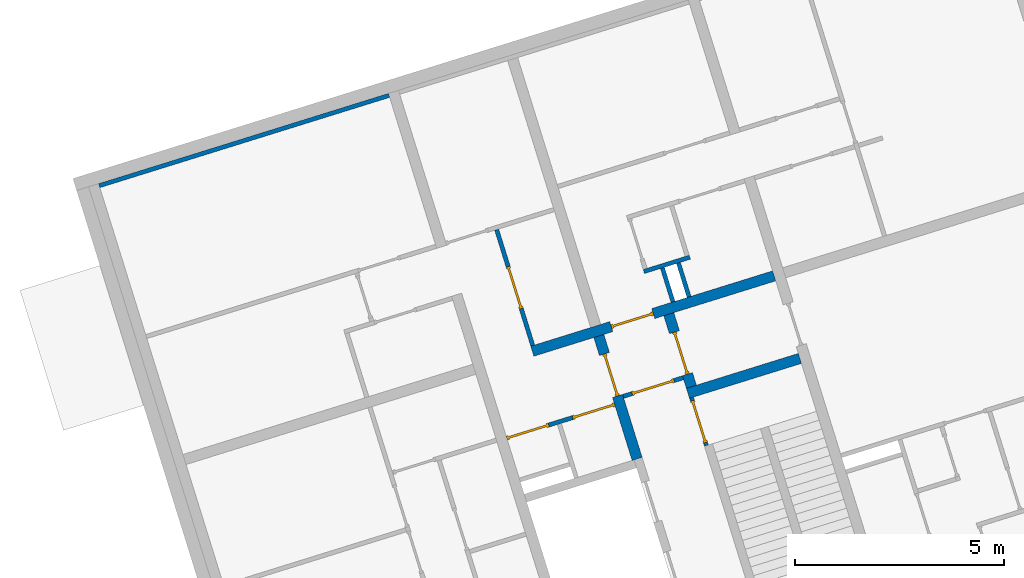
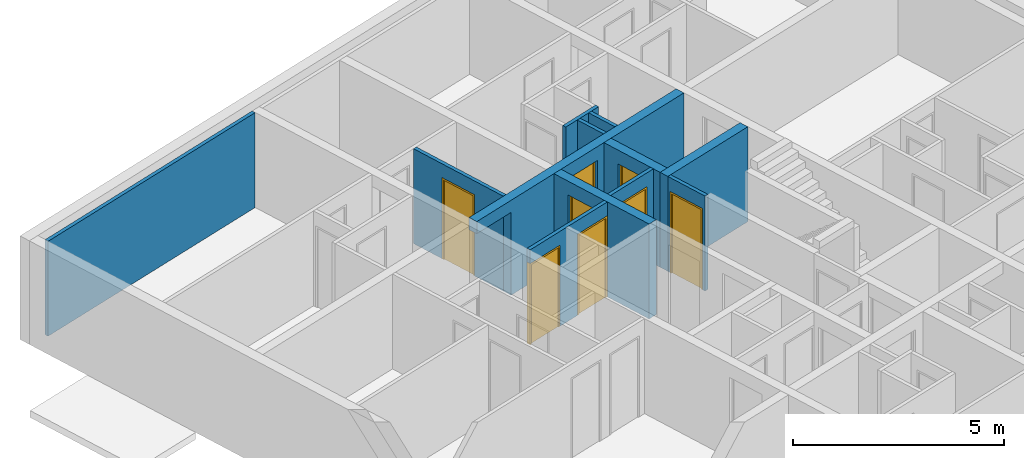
# One storey, part 5 of 8: 12 walls, 8 doors, 10 openings.
"""IFC4 building model written with IfcOpenShell, lengths in metres."""

from ifc_helpers import new_model, entity, si_unit, converted_unit, direction, frame, origin, place, context, subcontext, project, spatial, indexed_curve, outline, extrude, polygons, source, transform, mapped, material, constituent, constituent_set, type_object, type_shapes, element, fill, save


model = new_model("IFC4")

# Units and contexts
model_context = context("Model", 3, precision=1e-05, world=origin(), true_north=direction((6.12323399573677e-17, 1.0)))
body_context = subcontext(model_context, "Body", "Model", "MODEL_VIEW")
ifc_project = project(units=[si_unit("LENGTHUNIT", "METRE"), si_unit("AREAUNIT", "SQUARE_METRE"), si_unit("VOLUMEUNIT", "CUBIC_METRE"), converted_unit("PLANEANGLEUNIT", "DEGREE", entity("IfcPlaneAngleMeasure", 0.0174532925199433), si_unit("PLANEANGLEUNIT", "RADIAN"), dimensions=[0, 0, 0, 0, 0, 0, 0])], contexts=[model_context])

# Site, building, storey
site_placement = place(None, frame((13.1347999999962, 11.9886000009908, 0.0), z_axis=(0.0, 0.0, 1.0), x_axis=(0.954770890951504, 0.297342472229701, 0.0)))
site = spatial("IfcSite", under=ifc_project, at=site_placement, Name="Schiehaven", CompositionType="ELEMENT")
building_placement = place(site_placement, origin())
building = spatial("IfcBuilding", under=site, at=building_placement, Name="VORM huis", CompositionType="ELEMENT")
storey_placement = place(building_placement, frame((0.0, 0.0, 12.9)))
storey = spatial("IfcBuildingStorey", under=building, at=storey_placement, Name="04 vierde verdieping", CompositionType="ELEMENT", Elevation=12.9)

# Wall, openings, door
ifc_material_1 = material(Name="beton_gewapend_ihw", Category="Miscellaneous")
wall_type_1 = type_object("IfcWallType", Name="Basic Wall:28_WA_skelet_wand 250mm_gen", PredefinedType="STANDARD")
wall_1_placement = place(storey_placement, frame((12.6250000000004, 22.1999999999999, 0.0)))
wall_1 = element("IfcWall", 1, at=wall_1_placement, inside=storey, type_object=wall_type_1, material=ifc_material_1, Name="Constructieve wand", ObjectType="Wand", PredefinedType="NOTDEFINED", context=body_context, shape_type="Tessellation", body=[
    polygons([(4.225, -0.124999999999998, 2.34999999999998), (4.225, -0.124999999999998, 0.0), (7.25, -0.124999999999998, 0.0), (7.25, -0.124999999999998, 2.75), (-9.32382171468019e-16, -0.124999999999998, 2.75), (1.23335208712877e-15, -0.124999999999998, 2.4), (1.2, -0.124999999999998, 2.4), (1.2, -0.124999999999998, 0.0), (3.175, -0.124999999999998, 0.0), (3.175, -0.124999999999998, 2.34999999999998), (7.25, 0.125000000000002, 0.0), (4.225, 0.125000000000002, 0.0), (4.225, 0.125000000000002, 2.34999999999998), (3.175, 0.125000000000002, 2.34999999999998), (3.175, 0.125000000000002, 0.0), (1.2, 0.124999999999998, 0.0), (1.2, 0.125000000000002, 2.4), (1.38467104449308e-15, 0.125000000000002, 2.4), (1.38467104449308e-15, 0.125000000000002, 2.75), (7.25, 0.125000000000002, 2.75)], [[[1, 2, 3, 4, 5, 6, 7, 8, 9, 10]], [[11, 12, 13, 14, 15, 16, 17, 18, 19, 20]], [[9, 8, 16, 15]], [[5, 4, 20, 19]], [[5, 19, 18, 6]], [[15, 14, 10, 9]], [[13, 12, 2, 1]], [[14, 13, 1, 10]], [[7, 17, 16, 8]], [[17, 7, 6, 18]], [[4, 3, 11, 20]], [[3, 2, 12, 11]]], closed=True),
])
opening_1_placement = place(wall_1_placement, origin())
element("IfcOpeningElement", 2, at=opening_1_placement, cuts=wall_1, Name="Constructieve wand", PredefinedType="OPENING", context=body_context, shape_type="SweptSolid", body=[
    extrude(outline(indexed_curve([(-1.2, -0.6), (1.2, -0.6), (1.2, 0.6), (-1.2, 0.6), (-1.2, -0.6)], self_intersect=False)), frame((0.599999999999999, -0.125000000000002, 1.2), z_axis=(0.0, 1.0, 0.0), x_axis=(0.0, 0.0, -1.0)), (0.0, 0.0, 1.0), 0.250000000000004),
])
opening_2_placement = place(wall_1_placement, frame((4.22500000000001, 0.124999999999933, 0.0)))
opening_2 = element("IfcOpeningElement", 3, at=opening_2_placement, cuts=wall_1, Name="Woningtoegangsdeur", PredefinedType="OPENING", context=body_context, shape_type="SweptSolid", body=[
    extrude(outline(indexed_curve([(2.34999999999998, 1.05), (0.0, 1.05), (0.0, 1.08286712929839e-15), (2.34999999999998, 1.08286712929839e-15), (2.34999999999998, 1.05)], self_intersect=False)), frame((0.0, 0.0, 0.0), z_axis=(0.0, -1.0, 0.0), x_axis=(0.0, 0.0, 1.0)), (0.0, 0.0, 1.0), 0.25),
])
ifc_material_2 = material(Name="PD_a_binnenwandopeningen", Category="Miscellaneous")
ifc_constituent_1 = constituent(ifc_material_2, Name="PD_a_binnenwandopeningen", Category="Miscellaneous")
ifc_material_3 = material(Name="metaal_aluminium_ntb", Category="Miscellaneous")
ifc_constituent_2 = constituent(ifc_material_3, Name="metaal_aluminium_ntb", Category="Miscellaneous")
ifc_constituent_set_1 = constituent_set(constituents=[ifc_constituent_1, ifc_constituent_2])
door_type_1 = type_object("IfcDoorType", Name="32_DO_binnendeur enkel:woningtoegangsdeur", OperationType="REVOLVING", PredefinedType="DOOR")
shared_shape_1 = source(origin(), body_context, "Body", "SweptSolid", [
    extrude(outline(indexed_curve([(-1.16249999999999, -0.525000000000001), (1.18749999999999, -0.525), (1.18749999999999, 0.525000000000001), (-1.16249999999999, 0.525000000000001), (-1.16249999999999, 0.475), (1.13749999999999, 0.475), (1.13749999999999, -0.475), (-1.16249999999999, -0.475), (-1.16249999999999, -0.525000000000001)], self_intersect=False)), frame((0.525000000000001, 0.0749999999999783, 1.16249999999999), z_axis=(0.0, 1.0, 0.0), x_axis=(0.0, 0.0, 1.0)), (0.0, 0.0, 1.0), 0.1),
    extrude(outline(indexed_curve([(-0.025, -0.475), (0.025, -0.475), (0.025, 0.475), (-0.025, 0.475), (-0.025, -0.475)], self_intersect=False)), frame((0.525000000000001, 0.12499999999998, 0.0), z_axis=(0.0, 0.0, 1.0), x_axis=(0.0, 1.0, 0.0)), (0.0, 0.0, 1.0), 2.29999999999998),
])
door_1_placement = place(opening_2_placement, frame((0.0, 0.0, 0.0), z_axis=(0.0, 0.0, 1.0), x_axis=(-1.0, 0.0, 0.0)))
door_1 = element("IfcDoor", 4, at=door_1_placement, inside=storey, type_object=door_type_1, material=ifc_constituent_set_1, Name="Woningtoegangsdeur", ObjectType="Deur", OperationType="REVOLVING", OverallHeight=2.34999999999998, OverallWidth=1.05, PredefinedType="DOOR", context=body_context, shape_type="MappedRepresentation", body=[
    mapped(shared_shape_1, transform((0.0, 0.0, 0.0), scale=1.0)),
])
fill(opening_2, door_1)

# Walls
ifc_material_4 = material(Name="ntb_ntb_ntb", Category="Miscellaneous")
wall_type_2 = type_object("IfcWallType", Name="Basic Wall:21_WA_gevel_binnenspouwwand 100mm_gen", PredefinedType="STANDARD")
wall_2_placement = place(storey_placement, frame((5.12500000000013, 29.0500000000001, 0.0)))
element("IfcWall", 5, at=wall_2_placement, inside=storey, type_object=wall_type_2, material=ifc_material_4, Name="Binnenspouwblad", ObjectType="Wand", PredefinedType="NOTDEFINED", context=body_context, shape_type="SweptSolid", body=[
    extrude(outline(indexed_curve([(7.24999999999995, 0.0500000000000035), (-1.62265042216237e-16, 0.0500000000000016), (1.62265042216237e-16, -0.0500000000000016), (7.24999999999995, -0.0499999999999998), (7.24999999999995, 0.0500000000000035)], self_intersect=False)), origin(), (0.0, 0.0, 1.0), 2.75),
])
wall_type_3 = type_object("IfcWallType", Name="Basic Wall:22_WA_afbouw_binnenwand 250mm_gen", PredefinedType="STANDARD")
wall_3_placement = place(storey_placement, frame((19.8750000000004, 20.1349999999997, 0.0), z_axis=(0.0, 0.0, 1.0), x_axis=(-1.0, 0.0, 0.0)))
element("IfcWall", 6, at=wall_3_placement, inside=storey, type_object=wall_type_3, material=ifc_material_4, Name="Binnenwand", ObjectType="Wand", PredefinedType="NOTDEFINED", context=body_context, shape_type="SweptSolid", body=[
    extrude(outline(indexed_curve([(2.80000000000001, 0.125000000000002), (2.21820971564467e-15, 0.125000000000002), (2.1132588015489e-15, -0.125000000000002), (2.80000000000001, -0.125000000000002), (2.80000000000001, 0.125000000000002)], self_intersect=False)), origin(), (0.0, 0.0, 1.0), 2.75),
])

# Wall, opening, door
wall_4_placement = place(storey_placement, frame((17.2000000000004, 20.2599999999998, 0.0), z_axis=(0.0, 0.0, 1.0), x_axis=(0.0, 1.0, 0.0)))
wall_4 = element("IfcWall", 7, at=wall_4_placement, inside=storey, type_object=wall_type_3, material=ifc_material_4, Name="Binnenwand", ObjectType="Wand", PredefinedType="NOTDEFINED", context=body_context, shape_type="Tessellation", body=[
    polygons([(0.0, -0.124999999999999, 0.0), (0.315000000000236, -0.124999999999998, 0.0), (0.315000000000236, -0.124999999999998, 2.34999999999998), (1.36500000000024, -0.124999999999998, 2.34999999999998), (1.36500000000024, -0.124999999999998, 0.0), (1.81500000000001, -0.124999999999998, 0.0), (1.81500000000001, -0.124999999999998, 2.75), (0.0, -0.124999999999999, 2.75), (0.315000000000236, 0.125000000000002, 2.34999999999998), (0.315000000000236, 0.125000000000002, 0.0), (0.215000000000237, 0.125000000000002, 0.0), (0.0, 0.125, 0.0), (0.0, 0.125, 2.75), (0.215000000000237, 0.125000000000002, 2.75), (0.315000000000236, 0.125000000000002, 2.75), (1.81500000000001, 0.124999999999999, 2.75), (1.81500000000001, 0.124999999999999, 0.0), (1.36500000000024, 0.125000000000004, 0.0), (1.36500000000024, 0.125000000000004, 2.34999999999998)], [[[1, 2, 3, 4, 5, 6, 7, 8]], [[9, 10, 11, 12, 13, 14, 15, 16, 17, 18, 19]], [[12, 11, 10, 2, 1]], [[7, 6, 17, 16]], [[8, 7, 16, 15, 14, 13]], [[5, 4, 19, 18]], [[3, 2, 10, 9]], [[4, 3, 9, 19]], [[1, 8, 13, 12]], [[18, 17, 6, 5]]], closed=True),
])
opening_3_placement = place(wall_4_placement, frame((0.315000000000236, -0.125000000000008, 0.0)))
opening_3 = element("IfcOpeningElement", 8, at=opening_3_placement, cuts=wall_4, Name="Woningtoegangsdeur", PredefinedType="OPENING", context=body_context, shape_type="SweptSolid", body=[
    extrude(outline(indexed_curve([(2.34999999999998, 1.05), (0.0, 1.05), (0.0, 0.0), (2.34999999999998, 0.0), (2.34999999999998, 1.05)], self_intersect=False)), frame((0.0, 0.0, 0.0), z_axis=(0.0, 1.0, 0.0), x_axis=(0.0, 0.0, 1.0)), (0.0, 0.0, 1.0), 0.25),
])
ifc_constituent_3 = constituent(ifc_material_2, Name="PD_a_binnenwandopeningen", Category="Miscellaneous")
ifc_constituent_4 = constituent(ifc_material_3, Name="metaal_aluminium_ntb", Category="Miscellaneous")
ifc_constituent_set_2 = constituent_set(constituents=[ifc_constituent_3, ifc_constituent_4])
shared_shape_2 = source(origin(), body_context, "Body", "SweptSolid", [
    extrude(outline(indexed_curve([(-1.16249999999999, -0.525000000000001), (1.18749999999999, -0.525), (1.18749999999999, 0.525000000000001), (-1.16249999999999, 0.525000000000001), (-1.16249999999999, 0.475), (1.13749999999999, 0.475), (1.13749999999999, -0.475), (-1.16249999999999, -0.475), (-1.16249999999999, -0.525000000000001)], self_intersect=False)), frame((0.525000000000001, 0.0749999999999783, 1.16249999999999), z_axis=(0.0, 1.0, 0.0), x_axis=(0.0, 0.0, 1.0)), (0.0, 0.0, 1.0), 0.1),
    extrude(outline(indexed_curve([(-0.025, -0.475), (0.025, -0.475), (0.025, 0.475), (-0.025, 0.475), (-0.025, -0.475)], self_intersect=False)), frame((0.525000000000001, 0.12499999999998, 0.0), z_axis=(0.0, 0.0, 1.0), x_axis=(0.0, 1.0, 0.0)), (0.0, 0.0, 1.0), 2.29999999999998),
])
type_shapes(door_type_1, [shared_shape_2])
door_2_placement = place(opening_3_placement, origin())
door_2 = element("IfcDoor", 9, at=door_2_placement, inside=storey, type_object=door_type_1, material=ifc_constituent_set_2, Name="Woningtoegangsdeur", ObjectType="Deur", OperationType="REVOLVING", OverallHeight=2.34999999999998, OverallWidth=1.05, PredefinedType="DOOR", context=body_context, shape_type="MappedRepresentation", body=[
    mapped(shared_shape_2, transform((0.0, 0.0, 0.0), scale=1.0)),
])
fill(opening_3, door_2)

wall_5_placement = place(storey_placement, frame((15.4500000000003, 19.0, 0.0), z_axis=(0.0, 0.0, 1.0), x_axis=(0.0, 1.0, 0.0)))
wall_5 = element("IfcWall", 10, at=wall_5_placement, inside=storey, type_object=wall_type_3, material=ifc_material_4, Name="Binnenwand", ObjectType="Wand", PredefinedType="NOTDEFINED", context=body_context, shape_type="Tessellation", body=[
    polygons([(2.62500000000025, -0.124999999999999, 2.34999999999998), (2.62500000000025, -0.124999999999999, 0.0), (3.075, -0.124999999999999, 0.0), (3.075, -0.124999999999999, 2.75), (1.57500000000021, -0.124999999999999, 2.75), (1.47500000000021, -0.124999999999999, 2.75), (4.33146851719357e-15, -0.125, 2.75), (4.33146851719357e-15, -0.125, 0.0), (1.47500000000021, -0.124999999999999, 0.0), (1.57500000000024, -0.124999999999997, 0.0), (1.57500000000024, -0.124999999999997, 2.34999999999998), (3.075, 0.125, 0.0), (2.62500000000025, 0.125000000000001, 0.0), (2.62500000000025, 0.125000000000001, 2.34999999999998), (1.57500000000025, 0.125000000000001, 2.34999999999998), (1.57500000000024, 0.125000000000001, 0.0), (0.0, 0.125, 0.0), (0.0, 0.125, 2.75), (3.075, 0.125, 2.75)], [[[1, 2, 3, 4, 5, 6, 7, 8, 9, 10, 11]], [[12, 13, 14, 15, 16, 17, 18, 19]], [[10, 9, 8, 17, 16]], [[4, 3, 12, 19]], [[7, 6, 5, 4, 19, 18]], [[8, 7, 18, 17]], [[16, 15, 11, 10]], [[14, 13, 2, 1]], [[15, 14, 1, 11]], [[3, 2, 13, 12]]], closed=True),
])
opening_4_placement = place(wall_5_placement, frame((2.62500000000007, 0.124999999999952, 0.0)))
opening_4 = element("IfcOpeningElement", 11, at=opening_4_placement, cuts=wall_5, Name="Woningtoegangsdeur", PredefinedType="OPENING", context=body_context, shape_type="SweptSolid", body=[
    extrude(outline(indexed_curve([(2.34999999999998, 1.05), (0.0, 1.05), (0.0, -4.02144990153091e-29), (2.34999999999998, -4.02144990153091e-29), (2.34999999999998, 1.05)], self_intersect=False)), frame((0.0, 0.0, 0.0), z_axis=(0.0, -1.0, 0.0), x_axis=(0.0, 0.0, 1.0)), (0.0, 0.0, 1.0), 0.25),
])
ifc_constituent_5 = constituent(ifc_material_2, Name="PD_a_binnenwandopeningen", Category="Miscellaneous")
ifc_constituent_6 = constituent(ifc_material_3, Name="metaal_aluminium_ntb", Category="Miscellaneous")
ifc_constituent_set_3 = constituent_set(constituents=[ifc_constituent_5, ifc_constituent_6])
door_3_placement = place(opening_4_placement, frame((0.0, 0.0, 0.0), z_axis=(0.0, 0.0, 1.0), x_axis=(-1.0, 0.0, 0.0)))
door_3 = element("IfcDoor", 12, at=door_3_placement, inside=storey, type_object=door_type_1, material=ifc_constituent_set_3, Name="Woningtoegangsdeur", ObjectType="Deur", OperationType="REVOLVING", OverallHeight=2.34999999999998, OverallWidth=1.05, PredefinedType="DOOR", context=body_context, shape_type="MappedRepresentation", body=[
    mapped(shared_shape_2, transform((0.0, 0.0, 0.0), scale=1.0)),
])
fill(opening_4, door_3)

wall_type_4 = type_object("IfcWallType", Name="Basic Wall:22_WA_afbouw_binnenwand 100mm_gen", PredefinedType="STANDARD")
wall_6_placement = place(storey_placement, frame((17.1250000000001, 20.0099999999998, 0.0), z_axis=(0.0, 0.0, 1.0), x_axis=(0.0, -1.0, 0.0)))
wall_6 = element("IfcWall", 13, at=wall_6_placement, inside=storey, type_object=wall_type_4, material=ifc_material_4, Name="Binnenwand", ObjectType="Wand", PredefinedType="NOTDEFINED", context=body_context, shape_type="Tessellation", body=[
    polygons([(1.19999999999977, -0.050000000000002, 0.0), (1.19999999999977, -0.050000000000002, 2.75), (0.0, -0.0500000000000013, 2.75), (0.0, -0.0500000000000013, 0.0), (0.074999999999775, -0.0500000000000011, 0.0), (0.074999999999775, -0.0500000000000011, 2.34999999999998), (1.12499999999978, -0.0500000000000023, 2.34999999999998), (1.12499999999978, -0.0500000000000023, 0.0), (1.19999999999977, 0.0499999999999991, 2.75), (1.19999999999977, 0.0499999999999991, 0.0), (1.12499999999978, 0.0499999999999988, 0.0), (1.12499999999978, 0.0499999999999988, 2.34999999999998), (0.074999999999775, 0.0499999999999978, 2.34999999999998), (0.074999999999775, 0.0499999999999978, 0.0), (0.0, 0.0499999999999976, 0.0), (0.0, 0.0499999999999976, 2.75)], [[[1, 2, 3, 4, 5, 6, 7, 8]], [[9, 10, 11, 12, 13, 14, 15, 16]], [[4, 15, 14, 5]], [[2, 1, 10, 9]], [[3, 2, 9, 16]], [[13, 6, 5, 14]], [[6, 13, 12, 7]], [[7, 12, 11, 8]], [[4, 3, 16, 15]], [[10, 1, 8, 11]]], closed=True),
])
opening_5_placement = place(wall_6_placement, frame((0.074999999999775, -0.0500000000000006, 0.0)))
opening_5 = element("IfcOpeningElement", 14, at=opening_5_placement, cuts=wall_6, Name="Vluchtdeur", PredefinedType="OPENING", context=body_context, shape_type="SweptSolid", body=[
    extrude(outline(indexed_curve([(2.34999999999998, 1.05), (0.0, 1.05), (0.0, -3.51974282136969e-30), (2.34999999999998, -3.51974282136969e-30), (2.34999999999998, 1.05)], self_intersect=False)), frame((0.0, 0.0, 0.0), z_axis=(0.0, 1.0, 0.0), x_axis=(0.0, 0.0, 1.0)), (0.0, 0.0, 1.0), 0.1),
])
ifc_constituent_7 = constituent(ifc_material_2, Name="PD_a_binnenwandopeningen", Category="Miscellaneous")
ifc_constituent_8 = constituent(ifc_material_3, Name="metaal_aluminium_ntb", Category="Miscellaneous")
ifc_constituent_set_4 = constituent_set(constituents=[ifc_constituent_7, ifc_constituent_8])
door_type_2 = type_object("IfcDoorType", Name="32_DO_binnendeur enkel:binnendeur zelfsluitend 30min", OperationType="NOTDEFINED", PredefinedType="DOOR")
shared_shape_3 = source(origin(), body_context, "Body", "SweptSolid", [
    extrude(outline(indexed_curve([(-1.16249999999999, -0.525000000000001), (1.18749999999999, -0.525), (1.18749999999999, 0.525), (-1.16249999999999, 0.525), (-1.16249999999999, 0.475), (1.13749999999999, 0.475), (1.13749999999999, -0.475), (-1.16249999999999, -0.475), (-1.16249999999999, -0.525000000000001)], self_intersect=False)), frame((0.525000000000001, 0.0, 1.16249999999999), z_axis=(0.0, 1.0, 0.0), x_axis=(0.0, 0.0, 1.0)), (0.0, 0.0, 1.0), 0.1),
    extrude(outline(indexed_curve([(-0.025, -0.475), (0.025, -0.475), (0.025, 0.475), (-0.025, 0.475), (-0.025, -0.475)], self_intersect=False)), frame((0.525000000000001, 0.0499999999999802, 0.0), z_axis=(0.0, 0.0, 1.0), x_axis=(0.0, 1.0, 0.0)), (0.0, 0.0, 1.0), 2.29999999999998),
])
type_shapes(door_type_2, [shared_shape_3])
door_4_placement = place(opening_5_placement, origin())
door_4 = element("IfcDoor", 15, at=door_4_placement, inside=storey, type_object=door_type_2, material=ifc_constituent_set_4, Name="Vluchtdeur", ObjectType="Deur", OperationType="NOTDEFINED", OverallHeight=2.34999999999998, OverallWidth=1.05, PredefinedType="DOOR", context=body_context, shape_type="MappedRepresentation", body=[
    mapped(shared_shape_3, transform((0.0, 0.0, 0.0), scale=1.0)),
])
fill(opening_5, door_4)

wall_7_placement = place(storey_placement, frame((17.0750000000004, 20.525, 0.0), z_axis=(0.0, 0.0, 1.0), x_axis=(-1.0, 0.0, 0.0)))
wall_7 = element("IfcWall", 16, at=wall_7_placement, inside=storey, type_object=wall_type_4, material=ifc_material_4, Name="Binnenwand", ObjectType="Wand", PredefinedType="NOTDEFINED", context=body_context, shape_type="Tessellation", body=[
    polygons([(1.50000000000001, -0.0499999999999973, 2.75), (7.85851977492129e-16, -0.0499999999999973, 2.75), (7.85851977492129e-16, -0.0499999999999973, 2.34999999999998), (7.85851977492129e-16, -0.0499999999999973, 0.0), (0.22500000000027, -0.0499999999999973, 0.0), (0.225000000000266, -0.0499999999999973, 2.34999999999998), (1.27500000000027, -0.0499999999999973, 2.34999999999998), (1.27500000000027, -0.0499999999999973, 0.0), (1.50000000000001, -0.0499999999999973, 0.0), (1.5, -0.0499999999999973, 2.34999999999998), (3.01092306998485e-15, 0.0500000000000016, 2.75), (1.50000000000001, 0.0500000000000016, 2.75), (1.50000000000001, 0.0500000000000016, 0.0), (1.27500000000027, 0.0500000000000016, 0.0), (1.27500000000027, 0.0500000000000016, 2.34999999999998), (0.225000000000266, 0.0500000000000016, 2.34999999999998), (0.22500000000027, 0.0500000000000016, 0.0), (3.01092306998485e-15, 0.0500000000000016, 0.0)], [[[1, 2, 3, 4, 5, 6, 7, 8, 9, 10]], [[11, 12, 13, 14, 15, 16, 17, 18]], [[4, 18, 17, 5]], [[2, 1, 12, 11]], [[16, 6, 5, 17]], [[6, 16, 15, 7]], [[7, 15, 14, 8]], [[1, 10, 9, 13, 12]], [[4, 3, 2, 11, 18]], [[13, 9, 8, 14]]], closed=True),
])
opening_6_placement = place(wall_7_placement, frame((0.225000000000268, -0.0500000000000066, 0.0)))
opening_6 = element("IfcOpeningElement", 17, at=opening_6_placement, cuts=wall_7, Name="Vluchtdeur", PredefinedType="OPENING", context=body_context, shape_type="SweptSolid", body=[
    extrude(outline(indexed_curve([(2.34999999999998, 1.05), (0.0, 1.05), (0.0, 1.35358391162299e-15), (2.34999999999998, 1.35358391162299e-15), (2.34999999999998, 1.05)], self_intersect=False)), frame((0.0, 0.0, 0.0), z_axis=(0.0, 1.0, 0.0), x_axis=(0.0, 0.0, 1.0)), (0.0, 0.0, 1.0), 0.1),
])
ifc_constituent_9 = constituent(ifc_material_2, Name="PD_a_binnenwandopeningen", Category="Miscellaneous")
ifc_constituent_10 = constituent(ifc_material_3, Name="metaal_aluminium_ntb", Category="Miscellaneous")
ifc_constituent_set_5 = constituent_set(constituents=[ifc_constituent_9, ifc_constituent_10])
door_5_placement = place(opening_6_placement, origin())
door_5 = element("IfcDoor", 18, at=door_5_placement, inside=storey, type_object=door_type_2, material=ifc_constituent_set_5, Name="Vluchtdeur", ObjectType="Deur", OperationType="NOTDEFINED", OverallHeight=2.34999999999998, OverallWidth=1.05, PredefinedType="DOOR", context=body_context, shape_type="MappedRepresentation", body=[
    mapped(shared_shape_3, transform((0.0, 0.0, 0.0), scale=1.0)),
])
fill(opening_6, door_5)

# Walls
wall_8_placement = place(storey_placement, frame((18.0840000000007, 23.2250000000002, 0.0), z_axis=(0.0, 0.0, 1.0), x_axis=(-1.0, 0.0, 0.0)))
element("IfcWall", 19, at=wall_8_placement, inside=storey, type_object=wall_type_4, material=ifc_material_4, Name="Binnenwand", ObjectType="Wand", PredefinedType="NOTDEFINED", context=body_context, shape_type="SweptSolid", body=[
    extrude(outline(indexed_curve([(1.15000000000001, 0.050000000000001), (-7.23954101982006e-16, 0.0500000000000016), (7.23954101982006e-16, -0.0500000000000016), (1.15000000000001, -0.0500000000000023), (1.15000000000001, 0.050000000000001)], self_intersect=False)), origin(), (0.0, 0.0, 1.0), 2.75),
])
wall_9_placement = place(storey_placement, frame((17.3840000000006, 22.3250000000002, 0.0), z_axis=(0.0, 0.0, 1.0), x_axis=(0.0, 1.0, 0.0)))
element("IfcWall", 20, at=wall_9_placement, inside=storey, type_object=wall_type_4, material=ifc_material_4, Name="Binnenwand", ObjectType="Wand", PredefinedType="NOTDEFINED", context=body_context, shape_type="SweptSolid", body=[
    extrude(outline(indexed_curve([(0.85000000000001, 0.0500000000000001), (-6.72839576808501e-16, 0.0499999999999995), (6.72839576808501e-16, -0.0499999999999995), (0.850000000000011, -0.0499999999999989), (0.85000000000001, 0.0500000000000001)], self_intersect=False)), origin(), (0.0, 0.0, 1.0), 2.75),
])
wall_10_placement = place(storey_placement, frame((17.7840000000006, 22.3250000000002, 0.0), z_axis=(0.0, 0.0, 1.0), x_axis=(0.0, 1.0, 0.0)))
element("IfcWall", 21, at=wall_10_placement, inside=storey, type_object=wall_type_4, material=ifc_material_4, Name="Binnenwand", ObjectType="Wand", PredefinedType="NOTDEFINED", context=body_context, shape_type="SweptSolid", body=[
    extrude(outline(indexed_curve([(0.850000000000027, 0.0500000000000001), (-6.72839576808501e-16, 0.0499999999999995), (6.72839576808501e-16, -0.0499999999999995), (0.850000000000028, -0.0499999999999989), (0.850000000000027, 0.0500000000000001)], self_intersect=False)), origin(), (0.0, 0.0, 1.0), 2.75),
])

# Wall, openings, doors
wall_11_placement = place(storey_placement, frame((12.6250000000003, 20.4, 0.0)))
wall_11 = element("IfcWall", 22, at=wall_11_placement, inside=storey, type_object=wall_type_4, material=ifc_material_4, Name="Binnenwand", ObjectType="Wand", PredefinedType="NOTDEFINED", context=body_context, shape_type="Tessellation", body=[
    polygons([(2.70000000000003, -0.0499999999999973, 2.75), (1.35000000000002, -0.0499999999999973, 2.75), (1.25000000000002, -0.0499999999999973, 2.75), (9.09406101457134e-16, -0.0499999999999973, 2.75), (9.09406101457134e-16, -0.0499999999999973, 2.34999999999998), (1.05000000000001, -0.0499999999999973, 2.34999999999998), (1.05000000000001, -0.0499999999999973, 0.0), (1.25000000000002, -0.0499999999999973, 0.0), (1.35000000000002, -0.0499999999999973, 0.0), (1.65000000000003, -0.0499999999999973, 0.0), (1.65000000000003, -0.0499999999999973, 2.34999999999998), (2.70000000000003, -0.0499999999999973, 2.34999999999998), (1.89829959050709e-15, 0.0500000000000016, 2.75), (2.70000000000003, 0.0500000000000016, 2.75), (2.70000000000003, 0.0500000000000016, 2.34999999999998), (1.65000000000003, 0.0500000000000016, 2.34999999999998), (1.65000000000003, 0.0500000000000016, 0.0), (1.05000000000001, 0.0500000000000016, 0.0), (1.05000000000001, 0.0500000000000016, 2.34999999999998), (1.89829959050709e-15, 0.0500000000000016, 2.34999999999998)], [[[1, 2, 3, 4, 5, 6, 7, 8, 9, 10, 11, 12]], [[13, 14, 15, 16, 17, 18, 19, 20]], [[17, 10, 9, 8, 7, 18]], [[14, 1, 12, 15]], [[4, 3, 2, 1, 14, 13]], [[4, 13, 20, 5]], [[6, 19, 18, 7]], [[19, 6, 5, 20]], [[16, 11, 10, 17]], [[11, 16, 15, 12]]], closed=True),
])
opening_7_placement = place(wall_11_placement, frame((0.0, -0.050000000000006, 0.0)))
opening_7 = element("IfcOpeningElement", 23, at=opening_7_placement, cuts=wall_11, Name="Binnendeur", PredefinedType="OPENING", context=body_context, shape_type="SweptSolid", body=[
    extrude(outline(indexed_curve([(2.34999999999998, 1.05), (0.0, 1.05), (0.0, 1.35358391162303e-15), (2.34999999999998, 1.35358391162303e-15), (2.34999999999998, 1.05)], self_intersect=False)), frame((0.0, 0.0, 0.0), z_axis=(0.0, 1.0, 0.0), x_axis=(0.0, 0.0, 1.0)), (0.0, 0.0, 1.0), 0.1),
])
opening_8_placement = place(wall_11_placement, frame((-12.6250000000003, -20.4, 0.0)))
element("IfcOpeningElement", 24, at=opening_8_placement, cuts=wall_11, Name="Binnendeur", PredefinedType="OPENING", context=body_context, shape_type="SweptSolid", body=[
    extrude(outline(indexed_curve([(-1.17499999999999, -0.525000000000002), (1.17499999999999, -0.525), (1.17499999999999, 0.525), (-1.17499999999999, 0.525), (-1.17499999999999, -0.525000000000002)], self_intersect=False)), frame((13.1500000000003, 18.826, 1.17499999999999), z_axis=(0.0, 1.0, 0.0), x_axis=(0.0, 0.0, -1.0)), (0.0, 0.0, 1.0), 3.048),
])
opening_9_placement = place(wall_11_placement, frame((1.65000000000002, -0.0500000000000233, 0.0)))
opening_9 = element("IfcOpeningElement", 25, at=opening_9_placement, cuts=wall_11, Name="Binnendeur", PredefinedType="OPENING", context=body_context, shape_type="SweptSolid", body=[
    extrude(outline(indexed_curve([(2.34999999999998, 1.05), (0.0, 1.05), (0.0, 1.35358391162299e-15), (2.34999999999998, 1.35358391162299e-15), (2.34999999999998, 1.05)], self_intersect=False)), frame((0.0, 0.0, 0.0), z_axis=(0.0, 1.0, 0.0), x_axis=(0.0, 0.0, 1.0)), (0.0, 0.0, 1.0), 0.1),
])
ifc_constituent_11 = constituent(ifc_material_2, Name="PD_a_binnenwandopeningen", Category="Miscellaneous")
ifc_constituent_12 = constituent(ifc_material_3, Name="metaal_aluminium_ntb", Category="Miscellaneous")
ifc_constituent_set_6 = constituent_set(constituents=[ifc_constituent_11, ifc_constituent_12])
door_type_3 = type_object("IfcDoorType", Name="32_DO_binnendeur enkel:binnendeur", OperationType="REVOLVING", PredefinedType="DOOR")
shared_shape_4 = source(origin(), body_context, "Body", "SweptSolid", [
    extrude(outline(indexed_curve([(-1.16249999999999, -0.525000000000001), (1.18749999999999, -0.525), (1.18749999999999, 0.525), (-1.16249999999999, 0.525), (-1.16249999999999, 0.475), (1.13749999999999, 0.475), (1.13749999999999, -0.475), (-1.16249999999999, -0.475), (-1.16249999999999, -0.525000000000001)], self_intersect=False)), frame((0.525000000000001, 0.0, 1.16249999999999), z_axis=(0.0, 1.0, 0.0), x_axis=(0.0, 0.0, 1.0)), (0.0, 0.0, 1.0), 0.1),
    extrude(outline(indexed_curve([(-0.025, -0.475), (0.025, -0.475), (0.025, 0.475), (-0.025, 0.475), (-0.025, -0.475)], self_intersect=False)), frame((0.525000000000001, 0.0499999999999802, 0.0), z_axis=(0.0, 0.0, 1.0), x_axis=(0.0, 1.0, 0.0)), (0.0, 0.0, 1.0), 2.29999999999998),
])
type_shapes(door_type_3, [shared_shape_4])
door_6_placement = place(opening_7_placement, origin())
door_6 = element("IfcDoor", 26, at=door_6_placement, inside=storey, type_object=door_type_3, material=ifc_constituent_set_6, Name="Binnendeur", ObjectType="Deur", OperationType="REVOLVING", OverallHeight=2.34999999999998, OverallWidth=1.05, PredefinedType="DOOR", context=body_context, shape_type="MappedRepresentation", body=[
    mapped(shared_shape_4, transform((0.0, 0.0, 0.0), scale=1.0)),
])
fill(opening_7, door_6)
ifc_constituent_13 = constituent(ifc_material_2, Name="PD_a_binnenwandopeningen", Category="Miscellaneous")
ifc_constituent_14 = constituent(ifc_material_3, Name="metaal_aluminium_ntb", Category="Miscellaneous")
ifc_constituent_set_7 = constituent_set(constituents=[ifc_constituent_13, ifc_constituent_14])
door_7_placement = place(opening_9_placement, origin())
door_7 = element("IfcDoor", 27, at=door_7_placement, inside=storey, type_object=door_type_3, material=ifc_constituent_set_7, Name="Binnendeur", ObjectType="Deur", OperationType="REVOLVING", OverallHeight=2.34999999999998, OverallWidth=1.05, PredefinedType="DOOR", context=body_context, shape_type="MappedRepresentation", body=[
    mapped(shared_shape_4, transform((0.0, 0.0, 0.0), scale=1.0)),
])
fill(opening_9, door_7)

# Wall, opening, door
wall_12_placement = place(storey_placement, frame((13.8750000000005, 22.3249999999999, 0.0), z_axis=(0.0, 0.0, 1.0), x_axis=(0.0, 1.0, 0.0)))
wall_12 = element("IfcWall", 28, at=wall_12_placement, inside=storey, type_object=wall_type_4, material=ifc_material_4, Name="Binnenwand", ObjectType="Wand", PredefinedType="NOTDEFINED", context=body_context, shape_type="Tessellation", body=[
    polygons([(0.0, -0.0499999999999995, 0.0), (0.925000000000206, -0.0499999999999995, 0.0), (0.925000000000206, -0.0499999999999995, 2.34999999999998), (1.97500000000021, -0.0499999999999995, 2.34999999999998), (1.97500000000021, -0.0499999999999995, 0.0), (2.90000000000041, -0.0499999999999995, 0.0), (2.90000000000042, -0.0499999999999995, 2.75), (0.0, -0.0499999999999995, 2.75), (0.925000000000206, 0.0500000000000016, 2.34999999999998), (0.925000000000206, 0.0500000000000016, 0.0), (0.0, 0.0500000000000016, 0.0), (0.0, 0.0500000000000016, 2.75), (2.90000000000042, 0.0500000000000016, 2.75), (2.90000000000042, 0.0500000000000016, 0.0), (1.97500000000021, 0.0500000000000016, 0.0), (1.97500000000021, 0.0500000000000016, 2.34999999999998)], [[[1, 2, 3, 4, 5, 6, 7, 8]], [[9, 10, 11, 12, 13, 14, 15, 16]], [[11, 10, 2, 1]], [[8, 7, 13, 12]], [[1, 8, 12, 11]], [[5, 4, 16, 15]], [[3, 2, 10, 9]], [[4, 3, 9, 16]], [[7, 6, 14, 13]], [[15, 14, 6, 5]]], closed=True),
])
opening_10_placement = place(wall_12_placement, frame((0.925000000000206, -0.0499999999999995, 0.0)))
opening_10 = element("IfcOpeningElement", 29, at=opening_10_placement, cuts=wall_12, Name="Binnendeur", PredefinedType="OPENING", context=body_context, shape_type="SweptSolid", body=[
    extrude(outline(indexed_curve([(2.34999999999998, 1.05), (0.0, 1.05), (0.0, 0.0), (2.34999999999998, 0.0), (2.34999999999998, 1.05)], self_intersect=False)), frame((0.0, 0.0, 0.0), z_axis=(0.0, 1.0, 0.0), x_axis=(0.0, 0.0, 1.0)), (0.0, 0.0, 1.0), 0.1),
])
ifc_constituent_15 = constituent(ifc_material_2, Name="PD_a_binnenwandopeningen", Category="Miscellaneous")
ifc_constituent_16 = constituent(ifc_material_3, Name="metaal_aluminium_ntb", Category="Miscellaneous")
ifc_constituent_set_8 = constituent_set(constituents=[ifc_constituent_15, ifc_constituent_16])
door_8_placement = place(opening_10_placement, origin())
door_8 = element("IfcDoor", 30, at=door_8_placement, inside=storey, type_object=door_type_3, material=ifc_constituent_set_8, Name="Binnendeur", ObjectType="Deur", OperationType="REVOLVING", OverallHeight=2.34999999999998, OverallWidth=1.05, PredefinedType="DOOR", context=body_context, shape_type="MappedRepresentation", body=[
    mapped(shared_shape_4, transform((0.0, 0.0, 0.0), scale=1.0)),
])
fill(opening_10, door_8)

save(model, "model.ifc")
